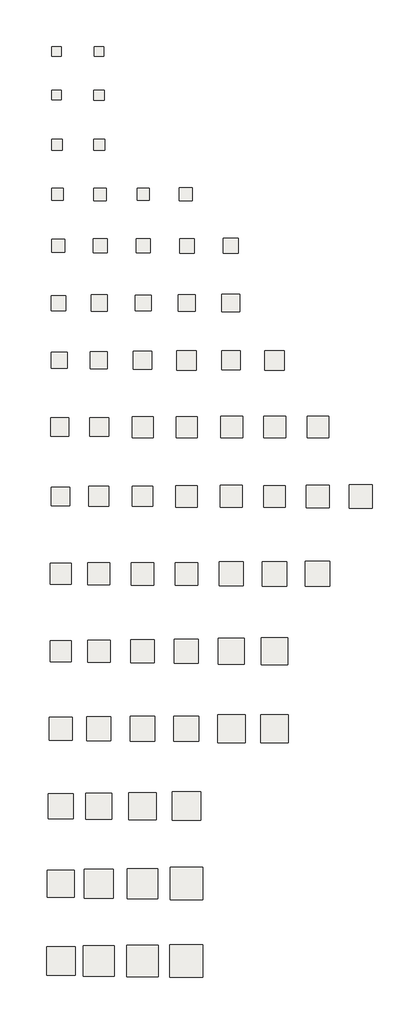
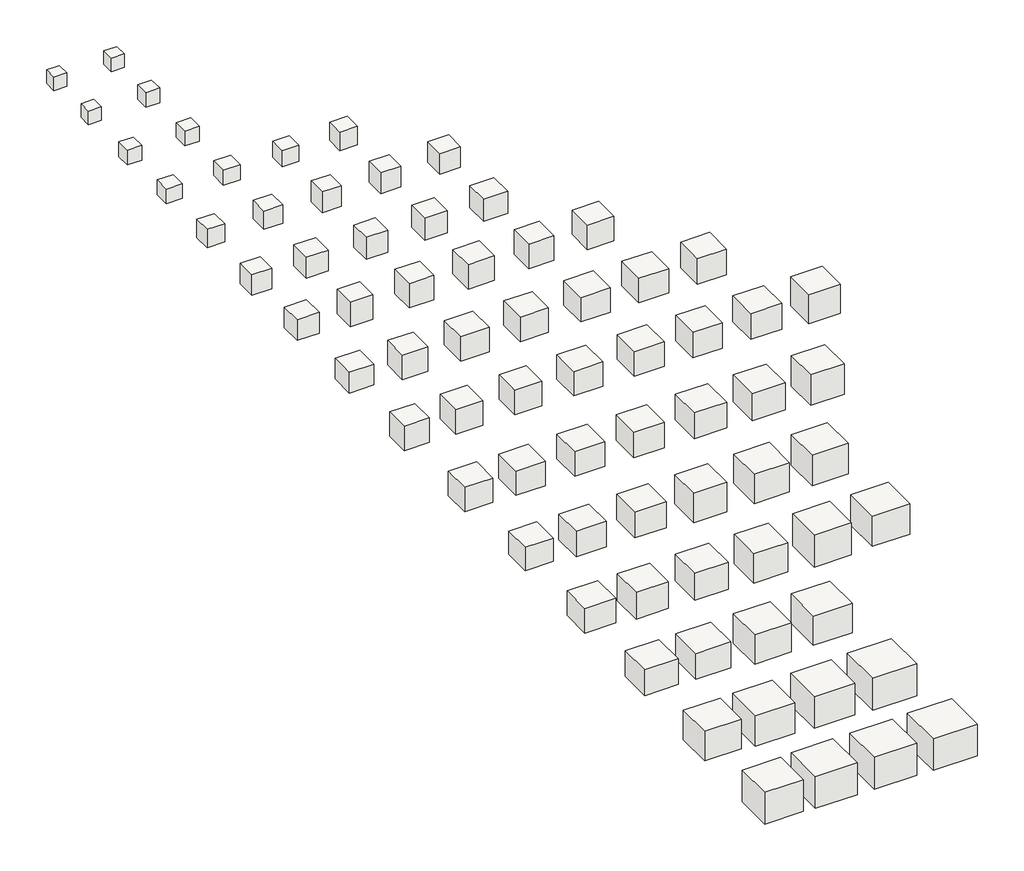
# One storey: 72 slabs.
"""IFC4 building model written with IfcOpenShell, lengths in millimetres."""

from ifc_helpers import new_model, si_unit, frame, origin, place, context, project, spatial, polyline, outline, extrude, transform, mapped, element, save
from components import sp151_05a4cf6c, sp172_eb2fc9ff, sp201_40aa0069, sp202_64a20f4a, sp251_73d5eac0, sp252_80b67837, sp253_21547eb5, sp254_342b2ffc, sp302_24c720b1, sp303_aef286e8, sp304_1c79e197, sp305_9777ce12, sp351_d71c6902, sp352_d6b55bf2, sp353_86609485, sp354_4fb15817, sp355_42aa3880, sp402_d799182d, sp403_6269cbd8, sp404_84e5b0d5, sp451_7c441174, sp452_bbb9569a, sp453_dc423d0a, sp455_c88f138c, sp456_6177a426, sp457_512797bb, sp601_9517f7fc, sp651_9057769a, sp701_4ba59a25, sp751_83db5c08, sp801_8423388f

model = new_model("IFC4")

# Units and contexts
model_context = context("Model", 3, world=origin())
ifc_project = project(units=[si_unit("LENGTHUNIT", "METRE", prefix="MILLI")], contexts=[model_context])

# Site, building, storey
site = spatial("IfcSite", under=ifc_project)
building = spatial("IfcBuilding", under=site)
storey = spatial("IfcBuildingStorey", under=building, Name="レベル 1", Elevation=0.0)

# Slabs
placement = place(None, origin())
sp151_shape = sp151_05a4cf6c(model_context)
element("IfcSlab", 1, ObjectType="柱形_SP : SP151", at=placement, inside=storey, context=model_context, shape_type="MappedRepresentation", body=[
    mapped(sp151_shape, transform((-18374.1210172, 22289.5887732, 0.0), x_axis=(1.0, 0.0, 0.0), y_axis=(0.0, 1.0, 0.0), z_axis=(0.0, 0.0, 1.0))),
])
element("IfcSlab", 2, ObjectType="柱形_SP : SP152", at=placement, inside=storey, context=model_context, shape_type="MappedRepresentation", body=[
    mapped(sp151_shape, transform((-16150.7168251, 22289.5887732, 0.0), x_axis=(1.0, 0.0, 0.0), y_axis=(0.0, 1.0, 0.0), z_axis=(0.0, 0.0, 1.0))),
])
element("IfcSlab", 3, ObjectType="柱形_SP : SP171", at=placement, inside=storey, context=model_context, shape_type="MappedRepresentation", body=[
    mapped(sp151_shape, transform((-18364.1210172, 19989.5887732, 0.0), x_axis=(1.0, 0.0, 0.0), y_axis=(0.0, 1.0, 0.0), z_axis=(0.0, 0.0, 1.0))),
])
sp172_shape = sp172_eb2fc9ff(model_context)
element("IfcSlab", 4, ObjectType="柱形_SP : SP172", at=placement, inside=storey, context=model_context, shape_type="MappedRepresentation", body=[
    mapped(sp172_shape, transform((-16140.7168251, 19989.5887732, 0.0), x_axis=(1.0, 0.0, 0.0), y_axis=(0.0, 1.0, 0.0), z_axis=(0.0, 0.0, 1.0))),
])
sp201_shape = sp201_40aa0069(model_context)
element("IfcSlab", 5, ObjectType="柱形_SP : SP201", at=placement, inside=storey, context=model_context, shape_type="MappedRepresentation", body=[
    mapped(sp201_shape, transform((-18349.1210172, 17389.5887732, 0.0), x_axis=(1.0, 0.0, 0.0), y_axis=(0.0, 1.0, 0.0), z_axis=(0.0, 0.0, 1.0))),
])
sp202_shape = sp202_64a20f4a(model_context)
element("IfcSlab", 6, ObjectType="柱形_SP : SP202", at=placement, inside=storey, context=model_context, shape_type="MappedRepresentation", body=[
    mapped(sp202_shape, transform((-16125.7168251, 17389.5887732, 0.0), x_axis=(1.0, 0.0, 0.0), y_axis=(0.0, 1.0, 0.0), z_axis=(0.0, 0.0, 1.0))),
])
sp251_shape = sp251_73d5eac0(model_context)
element("IfcSlab", 7, ObjectType="柱形_SP : SP251", at=placement, inside=storey, context=model_context, shape_type="MappedRepresentation", body=[
    mapped(sp251_shape, transform((-18324.1210172, 14789.5887732, 0.0), x_axis=(1.0, 0.0, 0.0), y_axis=(0.0, 1.0, 0.0), z_axis=(0.0, 0.0, 1.0))),
])
sp252_shape = sp252_80b67837(model_context)
element("IfcSlab", 8, ObjectType="柱形_SP : SP252", at=placement, inside=storey, context=model_context, shape_type="MappedRepresentation", body=[
    mapped(sp252_shape, transform((-16100.7168251, 14789.5887732, 0.0), x_axis=(1.0, 0.0, 0.0), y_axis=(0.0, 1.0, 0.0), z_axis=(0.0, 0.0, 1.0))),
])
sp253_shape = sp253_21547eb5(model_context)
element("IfcSlab", 9, ObjectType="柱形_SP : SP253", at=placement, inside=storey, context=model_context, shape_type="MappedRepresentation", body=[
    mapped(sp253_shape, transform((-13817.3126329, 14789.5887732, 0.0), x_axis=(1.0, 0.0, 0.0), y_axis=(0.0, 1.0, 0.0), z_axis=(0.0, 0.0, 1.0))),
])
sp254_shape = sp254_342b2ffc(model_context)
element("IfcSlab", 10, ObjectType="柱形_SP : SP254", at=placement, inside=storey, context=model_context, shape_type="MappedRepresentation", body=[
    mapped(sp254_shape, transform((-11583.9084407, 14789.5887732, 0.0), x_axis=(1.0, 0.0, 0.0), y_axis=(0.0, 1.0, 0.0), z_axis=(0.0, 0.0, 1.0))),
])
element("IfcSlab", 11, ObjectType="柱形_SP : SP301", at=placement, inside=storey, context=model_context, shape_type="MappedRepresentation", body=[
    mapped(sp254_shape, transform((-18289.1210172, 12089.5887732, 0.0), x_axis=(1.0, 0.0, 0.0), y_axis=(0.0, 1.0, 0.0), z_axis=(0.0, 0.0, 1.0))),
])
sp302_shape = sp302_24c720b1(model_context)
element("IfcSlab", 12, ObjectType="柱形_SP : SP302", at=placement, inside=storey, context=model_context, shape_type="MappedRepresentation", body=[
    mapped(sp302_shape, transform((-16070.7168251, 12089.5887732, 0.0), x_axis=(1.0, 0.0, 0.0), y_axis=(0.0, 1.0, 0.0), z_axis=(0.0, 0.0, 1.0))),
])
sp303_shape = sp303_aef286e8(model_context)
element("IfcSlab", 13, ObjectType="柱形_SP : SP303", at=placement, inside=storey, context=model_context, shape_type="MappedRepresentation", body=[
    mapped(sp303_shape, transform((-13817.3126329, 12089.5887732, 0.0), x_axis=(1.0, 0.0, 0.0), y_axis=(0.0, 1.0, 0.0), z_axis=(0.0, 0.0, 1.0))),
])
sp304_shape = sp304_1c79e197(model_context)
element("IfcSlab", 14, ObjectType="柱形_SP : SP304", at=placement, inside=storey, context=model_context, shape_type="MappedRepresentation", body=[
    mapped(sp304_shape, transform((-11536.4084407, 12089.5887732, 0.0), x_axis=(1.0, 0.0, 0.0), y_axis=(0.0, 1.0, 0.0), z_axis=(0.0, 0.0, 1.0))),
])
sp305_shape = sp305_9777ce12(model_context)
element("IfcSlab", 15, ObjectType="柱形_SP : SP305", at=placement, inside=storey, context=model_context, shape_type="MappedRepresentation", body=[
    mapped(sp305_shape, transform((-9236.4084407, 12089.5887732, 0.0), x_axis=(1.0, 0.0, 0.0), y_axis=(0.0, 1.0, 0.0), z_axis=(0.0, 0.0, 1.0))),
])
sp351_shape = sp351_d71c6902(model_context)
element("IfcSlab", 16, ObjectType="柱形_SP : SP351", at=placement, inside=storey, context=model_context, shape_type="MappedRepresentation", body=[
    mapped(sp351_shape, transform((-18264.1210172, 9089.5887732, 0.0), x_axis=(1.0, 0.0, 0.0), y_axis=(0.0, 1.0, 0.0), z_axis=(0.0, 0.0, 1.0))),
])
sp352_shape = sp352_d6b55bf2(model_context)
element("IfcSlab", 17, ObjectType="柱形_SP : SP352", at=placement, inside=storey, context=model_context, shape_type="MappedRepresentation", body=[
    mapped(sp352_shape, transform((-16130.7168251, 9089.5887732, 0.0), x_axis=(1.0, 0.0, 0.0), y_axis=(0.0, 1.0, 0.0), z_axis=(0.0, 0.0, 1.0))),
])
sp353_shape = sp353_86609485(model_context)
element("IfcSlab", 18, ObjectType="柱形_SP : SP353", at=placement, inside=storey, context=model_context, shape_type="MappedRepresentation", body=[
    mapped(sp353_shape, transform((-13817.3126329, 9089.5887732, 0.0), x_axis=(1.0, 0.0, 0.0), y_axis=(0.0, 1.0, 0.0), z_axis=(0.0, 0.0, 1.0))),
])
sp354_shape = sp354_4fb15817(model_context)
element("IfcSlab", 19, ObjectType="柱形_SP : SP354", at=placement, inside=storey, context=model_context, shape_type="MappedRepresentation", body=[
    mapped(sp354_shape, transform((-11536.4084407, 9089.5887732, 0.0), x_axis=(1.0, 0.0, 0.0), y_axis=(0.0, 1.0, 0.0), z_axis=(0.0, 0.0, 1.0))),
])
sp355_shape = sp355_42aa3880(model_context)
element("IfcSlab", 20, ObjectType="柱形_SP : SP355", at=placement, inside=storey, context=model_context, shape_type="MappedRepresentation", body=[
    mapped(sp355_shape, transform((-9236.4084407, 9089.5887732, 0.0), x_axis=(1.0, 0.0, 0.0), y_axis=(0.0, 1.0, 0.0), z_axis=(0.0, 0.0, 1.0))),
])
element("IfcSlab", 21, ObjectType="柱形_SP : SP401", at=placement, inside=storey, context=model_context, shape_type="SweptSolid", body=[
    extrude(outline(polyline([(-17796.0106955, 6519.5887732), (-17796.0106955, 5659.5887732), (-18656.0106955, 5659.5887732), (-18656.0106955, 6519.5887732), (-17796.0106955, 6519.5887732)])), frame((0.0, 0.0, -850.0), z_axis=(0.0, 0.0, 1.0), x_axis=(1.0, 0.0, 0.0)), (0.0, 0.0, 1.0), 850.0),
])
sp402_shape = sp402_d799182d(model_context)
element("IfcSlab", 22, ObjectType="柱形_SP : SP402", at=placement, inside=storey, context=model_context, shape_type="MappedRepresentation", body=[
    mapped(sp402_shape, transform((-16159.2265438, 6089.5887732, 0.0), x_axis=(1.0, 0.0, 0.0), y_axis=(0.0, 1.0, 0.0), z_axis=(0.0, 0.0, 1.0))),
])
sp403_shape = sp403_6269cbd8(model_context)
element("IfcSlab", 23, ObjectType="柱形_SP : SP403", at=placement, inside=storey, context=model_context, shape_type="MappedRepresentation", body=[
    mapped(sp403_shape, transform((-13859.2265438, 6089.5887732, 0.0), x_axis=(1.0, 0.0, 0.0), y_axis=(0.0, 1.0, 0.0), z_axis=(0.0, 0.0, 1.0))),
])
sp404_shape = sp404_84e5b0d5(model_context)
element("IfcSlab", 24, ObjectType="柱形_SP : SP404", at=placement, inside=storey, context=model_context, shape_type="MappedRepresentation", body=[
    mapped(sp404_shape, transform((-11559.2265438, 6089.5887732, 0.0), x_axis=(1.0, 0.0, 0.0), y_axis=(0.0, 1.0, 0.0), z_axis=(0.0, 0.0, 1.0))),
])
element("IfcSlab", 25, ObjectType="柱形_SP : SP405", at=placement, inside=storey, context=model_context, shape_type="SweptSolid", body=[
    extrude(outline(polyline([(-8729.2265438, 6579.5887732), (-8729.2265438, 5599.5887732), (-9709.2265438, 5599.5887732), (-9709.2265438, 6579.5887732), (-8729.2265438, 6579.5887732)])), frame((0.0, 0.0, -1000.0), z_axis=(0.0, 0.0, 1.0), x_axis=(1.0, 0.0, 0.0)), (0.0, 0.0, 1.0), 1000.0),
])
element("IfcSlab", 26, ObjectType="柱形_SP : SP406", at=placement, inside=storey, context=model_context, shape_type="SweptSolid", body=[
    extrude(outline(polyline([(-6421.2999676, 6599.5887732), (-6421.2999676, 5579.5887732), (-7441.2999676, 5579.5887732), (-7441.2999676, 6599.5887732), (-6421.2999676, 6599.5887732)])), frame((0.0, 0.0, -1000.0), z_axis=(0.0, 0.0, 1.0), x_axis=(1.0, 0.0, 0.0)), (0.0, 0.0, 1.0), 1000.0),
])
sp451_shape = sp451_7c441174(model_context)
element("IfcSlab", 27, ObjectType="柱形_SP : SP451", at=placement, inside=storey, context=model_context, shape_type="MappedRepresentation", body=[
    mapped(sp451_shape, transform((-18199.1210172, 2589.5887732, 0.0), x_axis=(1.0, 0.0, 0.0), y_axis=(0.0, 1.0, 0.0), z_axis=(0.0, 0.0, 1.0))),
])
sp452_shape = sp452_bbb9569a(model_context)
element("IfcSlab", 28, ObjectType="柱形_SP : SP452", at=placement, inside=storey, context=model_context, shape_type="MappedRepresentation", body=[
    mapped(sp452_shape, transform((-16132.3368655, 2589.5887732, 0.0), x_axis=(1.0, 0.0, 0.0), y_axis=(0.0, 1.0, 0.0), z_axis=(0.0, 0.0, 1.0))),
])
sp453_shape = sp453_dc423d0a(model_context)
element("IfcSlab", 29, ObjectType="柱形_SP : SP453", at=placement, inside=storey, context=model_context, shape_type="MappedRepresentation", body=[
    mapped(sp453_shape, transform((-13844.2265438, 2589.5887732, 0.0), x_axis=(1.0, 0.0, 0.0), y_axis=(0.0, 1.0, 0.0), z_axis=(0.0, 0.0, 1.0))),
])
element("IfcSlab", 30, ObjectType="柱形_SP : SP454", at=placement, inside=storey, context=model_context, shape_type="MappedRepresentation", body=[
    mapped(sp453_shape, transform((-11544.2265438, 2589.5887732, 0.0), x_axis=(1.0, 0.0, 0.0), y_axis=(0.0, 1.0, 0.0), z_axis=(0.0, 0.0, 1.0))),
])
sp455_shape = sp455_c88f138c(model_context)
element("IfcSlab", 31, ObjectType="柱形_SP : SP455", at=placement, inside=storey, context=model_context, shape_type="MappedRepresentation", body=[
    mapped(sp455_shape, transform((-9184.2265438, 2589.5887732, 0.0), x_axis=(1.0, 0.0, 0.0), y_axis=(0.0, 1.0, 0.0), z_axis=(0.0, 0.0, 1.0))),
])
sp456_shape = sp456_6177a426(model_context)
element("IfcSlab", 32, ObjectType="柱形_SP : SP456", at=placement, inside=storey, context=model_context, shape_type="MappedRepresentation", body=[
    mapped(sp456_shape, transform((-6924.2265438, 2589.5887732, 0.0), x_axis=(1.0, 0.0, 0.0), y_axis=(0.0, 1.0, 0.0), z_axis=(0.0, 0.0, 1.0))),
])
sp457_shape = sp457_512797bb(model_context)
element("IfcSlab", 33, ObjectType="柱形_SP : SP457", at=placement, inside=storey, context=model_context, shape_type="MappedRepresentation", body=[
    mapped(sp457_shape, transform((-4664.2265438, 2589.5887732, 0.0), x_axis=(1.0, 0.0, 0.0), y_axis=(0.0, 1.0, 0.0), z_axis=(0.0, 0.0, 1.0))),
])
element("IfcSlab", 34, ObjectType="柱形_SP : SP501", at=placement, inside=storey, context=model_context, shape_type="SweptSolid", body=[
    extrude(outline(polyline([(-17689.1210172, -565.4112268), (-17689.1210172, -1535.4112268), (-18659.1210172, -1535.4112268), (-18659.1210172, -565.4112268), (-17689.1210172, -565.4112268)])), frame((0.0, 0.0, -1000.0), z_axis=(0.0, 0.0, 1.0), x_axis=(1.0, 0.0, 0.0)), (0.0, 0.0, 1.0), 1000.0),
])
element("IfcSlab", 35, ObjectType="柱形_SP : SP502", at=placement, inside=storey, context=model_context, shape_type="SweptSolid", body=[
    extrude(outline(polyline([(-15625.8055027, -525.4112268), (-15625.8055027, -1575.4112268), (-16675.8055027, -1575.4112268), (-16675.8055027, -525.4112268), (-15625.8055027, -525.4112268)])), frame((0.0, 0.0, -1000.0), z_axis=(0.0, 0.0, 1.0), x_axis=(1.0, 0.0, 0.0)), (0.0, 0.0, 1.0), 1000.0),
])
element("IfcSlab", 36, ObjectType="柱形_SP : SP503", at=placement, inside=storey, context=model_context, shape_type="SweptSolid", body=[
    extrude(outline(polyline([(-13337.695181, -525.4112268), (-13337.695181, -1575.4112268), (-14387.695181, -1575.4112268), (-14387.695181, -525.4112268), (-13337.695181, -525.4112268)])), frame((0.0, 0.0, -1000.0), z_axis=(0.0, 0.0, 1.0), x_axis=(1.0, 0.0, 0.0)), (0.0, 0.0, 1.0), 1000.0),
])
element("IfcSlab", 37, ObjectType="柱形_SP : SP504", at=placement, inside=storey, context=model_context, shape_type="SweptSolid", body=[
    extrude(outline(polyline([(-10997.695181, -485.4112268), (-10997.695181, -1615.4112268), (-12127.695181, -1615.4112268), (-12127.695181, -485.4112268), (-10997.695181, -485.4112268)])), frame((0.0, 0.0, -1000.0), z_axis=(0.0, 0.0, 1.0), x_axis=(1.0, 0.0, 0.0)), (0.0, 0.0, 1.0), 1000.0),
])
element("IfcSlab", 38, ObjectType="柱形_SP : SP505", at=placement, inside=storey, context=model_context, shape_type="SweptSolid", body=[
    extrude(outline(polyline([(-8627.695181, -475.4112268), (-8627.695181, -1625.4112268), (-9777.695181, -1625.4112268), (-9777.695181, -475.4112268), (-8627.695181, -475.4112268)])), frame((0.0, 0.0, -1000.0), z_axis=(0.0, 0.0, 1.0), x_axis=(1.0, 0.0, 0.0)), (0.0, 0.0, 1.0), 1000.0),
])
element("IfcSlab", 39, ObjectType="柱形_SP : SP506", at=placement, inside=storey, context=model_context, shape_type="SweptSolid", body=[
    extrude(outline(polyline([(-6372.695181, -480.4112268), (-6372.695181, -1620.4112268), (-7512.695181, -1620.4112268), (-7512.695181, -480.4112268), (-6372.695181, -480.4112268)])), frame((0.0, 0.0, -1050.0), z_axis=(0.0, 0.0, 1.0), x_axis=(1.0, 0.0, 0.0)), (0.0, 0.0, 1.0), 1050.0),
])
element("IfcSlab", 40, ObjectType="柱形_SP : SP507", at=placement, inside=storey, context=model_context, shape_type="SweptSolid", body=[
    extrude(outline(polyline([(-4082.695181, -450.4112268), (-4082.695181, -1650.4112268), (-5282.695181, -1650.4112268), (-5282.695181, -450.4112268), (-4082.695181, -450.4112268)])), frame((0.0, 0.0, -1050.0), z_axis=(0.0, 0.0, 1.0), x_axis=(1.0, 0.0, 0.0)), (0.0, 0.0, 1.0), 1050.0),
])
element("IfcSlab", 41, ObjectType="柱形_SP : SP508", at=placement, inside=storey, context=model_context, shape_type="SweptSolid", body=[
    extrude(outline(polyline([(-1812.695181, -440.4112268), (-1812.695181, -1660.4112268), (-3032.695181, -1660.4112268), (-3032.695181, -440.4112268), (-1812.695181, -440.4112268)])), frame((0.0, 0.0, -1200.0), z_axis=(0.0, 0.0, 1.0), x_axis=(1.0, 0.0, 0.0)), (0.0, 0.0, 1.0), 1200.0),
])
element("IfcSlab", 42, ObjectType="柱形_SP : SP551", at=placement, inside=storey, context=model_context, shape_type="MappedRepresentation", body=[
    mapped(sp453_shape, transform((-18144.1210172, -5110.4112268, 0.0), x_axis=(1.0, 0.0, 0.0), y_axis=(0.0, 1.0, 0.0), z_axis=(0.0, 0.0, 1.0))),
])
element("IfcSlab", 43, ObjectType="柱形_SP : SP552", at=placement, inside=storey, context=model_context, shape_type="SweptSolid", body=[
    extrude(outline(polyline([(-15575.8055027, -4535.4112268), (-15575.8055027, -5685.4112268), (-16725.8055027, -5685.4112268), (-16725.8055027, -4535.4112268), (-15575.8055027, -4535.4112268)])), frame((0.0, 0.0, -1000.0), z_axis=(0.0, 0.0, 1.0), x_axis=(1.0, 0.0, 0.0)), (0.0, 0.0, 1.0), 1000.0),
])
element("IfcSlab", 44, ObjectType="柱形_SP : SP553", at=placement, inside=storey, context=model_context, shape_type="SweptSolid", body=[
    extrude(outline(polyline([(-13272.695181, -4520.4112268), (-13272.695181, -5700.4112268), (-14452.695181, -5700.4112268), (-14452.695181, -4520.4112268), (-13272.695181, -4520.4112268)])), frame((0.0, 0.0, -1000.0), z_axis=(0.0, 0.0, 1.0), x_axis=(1.0, 0.0, 0.0)), (0.0, 0.0, 1.0), 1000.0),
])
element("IfcSlab", 45, ObjectType="柱形_SP : SP554", at=placement, inside=storey, context=model_context, shape_type="SweptSolid", body=[
    extrude(outline(polyline([(-10977.695181, -4525.4112268), (-10977.695181, -5695.4112268), (-12147.695181, -5695.4112268), (-12147.695181, -4525.4112268), (-10977.695181, -4525.4112268)])), frame((0.0, 0.0, -1050.0), z_axis=(0.0, 0.0, 1.0), x_axis=(1.0, 0.0, 0.0)), (0.0, 0.0, 1.0), 1050.0),
])
element("IfcSlab", 46, ObjectType="柱形_SP : SP555", at=placement, inside=storey, context=model_context, shape_type="SweptSolid", body=[
    extrude(outline(polyline([(-8572.695181, -4480.4112268), (-8572.695181, -5740.4112268), (-9832.695181, -5740.4112268), (-9832.695181, -4480.4112268), (-8572.695181, -4480.4112268)])), frame((0.0, 0.0, -1050.0), z_axis=(0.0, 0.0, 1.0), x_axis=(1.0, 0.0, 0.0)), (0.0, 0.0, 1.0), 1050.0),
])
element("IfcSlab", 47, ObjectType="柱形_SP : SP556", at=placement, inside=storey, context=model_context, shape_type="SweptSolid", body=[
    extrude(outline(polyline([(-6302.695181, -4470.4112268), (-6302.695181, -5750.4112268), (-7582.695181, -5750.4112268), (-7582.695181, -4470.4112268), (-6302.695181, -4470.4112268)])), frame((0.0, 0.0, -1100.0), z_axis=(0.0, 0.0, 1.0), x_axis=(1.0, 0.0, 0.0)), (0.0, 0.0, 1.0), 1100.0),
])
element("IfcSlab", 48, ObjectType="柱形_SP : SP557", at=placement, inside=storey, context=model_context, shape_type="SweptSolid", body=[
    extrude(outline(polyline([(-4032.695181, -4460.4112268), (-4032.695181, -5760.4112268), (-5332.695181, -5760.4112268), (-5332.695181, -4460.4112268), (-4032.695181, -4460.4112268)])), frame((0.0, 0.0, -1250.0), z_axis=(0.0, 0.0, 1.0), x_axis=(1.0, 0.0, 0.0)), (0.0, 0.0, 1.0), 1250.0),
])
sp601_shape = sp601_9517f7fc(model_context)
element("IfcSlab", 49, ObjectType="柱形_SP : SP601", at=placement, inside=storey, context=model_context, shape_type="MappedRepresentation", body=[
    mapped(sp601_shape, transform((-18144.1210172, -9170.4112268, 0.0), x_axis=(1.0, 0.0, 0.0), y_axis=(0.0, 1.0, 0.0), z_axis=(0.0, 0.0, 1.0))),
])
element("IfcSlab", 50, ObjectType="柱形_SP : SP602", at=placement, inside=storey, context=model_context, shape_type="SweptSolid", body=[
    extrude(outline(polyline([(-15565.8055027, -8585.4112268), (-15565.8055027, -9755.4112268), (-16735.8055027, -9755.4112268), (-16735.8055027, -8585.4112268), (-15565.8055027, -8585.4112268)])), frame((0.0, 0.0, -1050.0), z_axis=(0.0, 0.0, 1.0), x_axis=(1.0, 0.0, 0.0)), (0.0, 0.0, 1.0), 1050.0),
])
element("IfcSlab", 51, ObjectType="柱形_SP : SP603", at=placement, inside=storey, context=model_context, shape_type="SweptSolid", body=[
    extrude(outline(polyline([(-13252.695181, -8560.4112268), (-13252.695181, -9780.4112268), (-14472.695181, -9780.4112268), (-14472.695181, -8560.4112268), (-13252.695181, -8560.4112268)])), frame((0.0, 0.0, -1050.0), z_axis=(0.0, 0.0, 1.0), x_axis=(1.0, 0.0, 0.0)), (0.0, 0.0, 1.0), 1050.0),
])
element("IfcSlab", 52, ObjectType="柱形_SP : SP604", at=placement, inside=storey, context=model_context, shape_type="SweptSolid", body=[
    extrude(outline(polyline([(-10927.695181, -8535.4112268), (-10927.695181, -9805.4112268), (-12197.695181, -9805.4112268), (-12197.695181, -8535.4112268), (-10927.695181, -8535.4112268)])), frame((0.0, 0.0, -1200.0), z_axis=(0.0, 0.0, 1.0), x_axis=(1.0, 0.0, 0.0)), (0.0, 0.0, 1.0), 1200.0),
])
element("IfcSlab", 53, ObjectType="柱形_SP : SP605", at=placement, inside=storey, context=model_context, shape_type="SweptSolid", body=[
    extrude(outline(polyline([(-8517.695181, -8485.4112268), (-8517.695181, -9855.4112268), (-9887.695181, -9855.4112268), (-9887.695181, -8485.4112268), (-8517.695181, -8485.4112268)])), frame((0.0, 0.0, -1200.0), z_axis=(0.0, 0.0, 1.0), x_axis=(1.0, 0.0, 0.0)), (0.0, 0.0, 1.0), 1200.0),
])
element("IfcSlab", 54, ObjectType="柱形_SP : SP606", at=placement, inside=storey, context=model_context, shape_type="SweptSolid", body=[
    extrude(outline(polyline([(-6242.695181, -8470.4112268), (-6242.695181, -9870.4112268), (-7642.695181, -9870.4112268), (-7642.695181, -8470.4112268), (-6242.695181, -8470.4112268)])), frame((0.0, 0.0, -1250.0), z_axis=(0.0, 0.0, 1.0), x_axis=(1.0, 0.0, 0.0)), (0.0, 0.0, 1.0), 1250.0),
])
sp651_shape = sp651_9057769a(model_context)
element("IfcSlab", 55, ObjectType="柱形_SP : SP651", at=placement, inside=storey, context=model_context, shape_type="MappedRepresentation", body=[
    mapped(sp651_shape, transform((-18144.1210172, -13230.4112268, 0.0), x_axis=(1.0, 0.0, 0.0), y_axis=(0.0, 1.0, 0.0), z_axis=(0.0, 0.0, 1.0))),
])
element("IfcSlab", 56, ObjectType="柱形_SP : SP652", at=placement, inside=storey, context=model_context, shape_type="SweptSolid", body=[
    extrude(outline(polyline([(-15525.8055027, -12605.4112268), (-15525.8055027, -13855.4112268), (-16775.8055027, -13855.4112268), (-16775.8055027, -12605.4112268), (-15525.8055027, -12605.4112268)])), frame((0.0, 0.0, -1100.0), z_axis=(0.0, 0.0, 1.0), x_axis=(1.0, 0.0, 0.0)), (0.0, 0.0, 1.0), 1100.0),
])
element("IfcSlab", 57, ObjectType="柱形_SP : SP653", at=placement, inside=storey, context=model_context, shape_type="SweptSolid", body=[
    extrude(outline(polyline([(-13212.695181, -12580.4112268), (-13212.695181, -13880.4112268), (-14512.695181, -13880.4112268), (-14512.695181, -12580.4112268), (-13212.695181, -12580.4112268)])), frame((0.0, 0.0, -1100.0), z_axis=(0.0, 0.0, 1.0), x_axis=(1.0, 0.0, 0.0)), (0.0, 0.0, 1.0), 1100.0),
])
element("IfcSlab", 58, ObjectType="柱形_SP : SP654", at=placement, inside=storey, context=model_context, shape_type="SweptSolid", body=[
    extrude(outline(polyline([(-10902.695181, -12570.4112268), (-10902.695181, -13890.4112268), (-12222.695181, -13890.4112268), (-12222.695181, -12570.4112268), (-10902.695181, -12570.4112268)])), frame((0.0, 0.0, -1200.0), z_axis=(0.0, 0.0, 1.0), x_axis=(1.0, 0.0, 0.0)), (0.0, 0.0, 1.0), 1200.0),
])
element("IfcSlab", 59, ObjectType="柱形_SP : SP655", at=placement, inside=storey, context=model_context, shape_type="SweptSolid", body=[
    extrude(outline(polyline([(-8477.695181, -12505.4112268), (-8477.695181, -13955.4112268), (-9927.695181, -13955.4112268), (-9927.695181, -12505.4112268), (-8477.695181, -12505.4112268)])), frame((0.0, 0.0, -1300.0), z_axis=(0.0, 0.0, 1.0), x_axis=(1.0, 0.0, 0.0)), (0.0, 0.0, 1.0), 1300.0),
])
element("IfcSlab", 60, ObjectType="柱形_SP : SP656", at=placement, inside=storey, context=model_context, shape_type="SweptSolid", body=[
    extrude(outline(polyline([(-6217.695181, -12505.4112268), (-6217.695181, -13955.4112268), (-7667.695181, -13955.4112268), (-7667.695181, -12505.4112268), (-6217.695181, -12505.4112268)])), frame((0.0, 0.0, -1250.0), z_axis=(0.0, 0.0, 1.0), x_axis=(1.0, 0.0, 0.0)), (0.0, 0.0, 1.0), 1250.0),
])
sp701_shape = sp701_4ba59a25(model_context)
element("IfcSlab", 61, ObjectType="柱形_SP : SP701", at=placement, inside=storey, context=model_context, shape_type="MappedRepresentation", body=[
    mapped(sp701_shape, transform((-18144.1210172, -17290.4112268, 0.0), x_axis=(1.0, 0.0, 0.0), y_axis=(0.0, 1.0, 0.0), z_axis=(0.0, 0.0, 1.0))),
])
element("IfcSlab", 62, ObjectType="柱形_SP : SP702", at=placement, inside=storey, context=model_context, shape_type="SweptSolid", body=[
    extrude(outline(polyline([(-15475.8055027, -16615.4112268), (-15475.8055027, -17965.4112268), (-16825.8055027, -17965.4112268), (-16825.8055027, -16615.4112268), (-15475.8055027, -16615.4112268)])), frame((0.0, 0.0, -1050.0), z_axis=(0.0, 0.0, 1.0), x_axis=(1.0, 0.0, 0.0)), (0.0, 0.0, 1.0), 1050.0),
])
element("IfcSlab", 63, ObjectType="柱形_SP : SP703", at=placement, inside=storey, context=model_context, shape_type="SweptSolid", body=[
    extrude(outline(polyline([(-13152.695181, -16580.4112268), (-13152.695181, -18000.4112268), (-14572.695181, -18000.4112268), (-14572.695181, -16580.4112268), (-13152.695181, -16580.4112268)])), frame((0.0, 0.0, -1200.0), z_axis=(0.0, 0.0, 1.0), x_axis=(1.0, 0.0, 0.0)), (0.0, 0.0, 1.0), 1200.0),
])
element("IfcSlab", 64, ObjectType="柱形_SP : SP704", at=placement, inside=storey, context=model_context, shape_type="SweptSolid", body=[
    extrude(outline(polyline([(-10812.695181, -16540.4112268), (-10812.695181, -18040.4112268), (-12312.695181, -18040.4112268), (-12312.695181, -16540.4112268), (-10812.695181, -16540.4112268)])), frame((0.0, 0.0, -1200.0), z_axis=(0.0, 0.0, 1.0), x_axis=(1.0, 0.0, 0.0)), (0.0, 0.0, 1.0), 1200.0),
])
sp751_shape = sp751_83db5c08(model_context)
element("IfcSlab", 65, ObjectType="柱形_SP : SP751", at=placement, inside=storey, context=model_context, shape_type="MappedRepresentation", body=[
    mapped(sp751_shape, transform((-18144.1210172, -21350.4112268, 0.0), x_axis=(1.0, 0.0, 0.0), y_axis=(0.0, 1.0, 0.0), z_axis=(0.0, 0.0, 1.0))),
])
element("IfcSlab", 66, ObjectType="柱形_SP : SP752", at=placement, inside=storey, context=model_context, shape_type="SweptSolid", body=[
    extrude(outline(polyline([(-15390.8055027, -20590.4112268), (-15390.8055027, -22110.4112268), (-16910.8055027, -22110.4112268), (-16910.8055027, -20590.4112268), (-15390.8055027, -20590.4112268)])), frame((0.0, 0.0, -1250.0), z_axis=(0.0, 0.0, 1.0), x_axis=(1.0, 0.0, 0.0)), (0.0, 0.0, 1.0), 1250.0),
])
element("IfcSlab", 67, ObjectType="柱形_SP : SP753", at=placement, inside=storey, context=model_context, shape_type="SweptSolid", body=[
    extrude(outline(polyline([(-13072.695181, -20560.4112268), (-13072.695181, -22140.4112268), (-14652.695181, -22140.4112268), (-14652.695181, -20560.4112268), (-13072.695181, -20560.4112268)])), frame((0.0, 0.0, -1300.0), z_axis=(0.0, 0.0, 1.0), x_axis=(1.0, 0.0, 0.0)), (0.0, 0.0, 1.0), 1300.0),
])
element("IfcSlab", 68, ObjectType="柱形_SP : SP754", at=placement, inside=storey, context=model_context, shape_type="SweptSolid", body=[
    extrude(outline(polyline([(-10712.695181, -20500.4112268), (-10712.695181, -22200.4112268), (-12412.695181, -22200.4112268), (-12412.695181, -20500.4112268), (-10712.695181, -20500.4112268)])), frame((0.0, 0.0, -1300.0), z_axis=(0.0, 0.0, 1.0), x_axis=(1.0, 0.0, 0.0)), (0.0, 0.0, 1.0), 1300.0),
])
sp801_shape = sp801_8423388f(model_context)
element("IfcSlab", 69, ObjectType="柱形_SP : SP801", at=placement, inside=storey, context=model_context, shape_type="MappedRepresentation", body=[
    mapped(sp801_shape, transform((-18144.1210172, -25410.4112268, 0.0), x_axis=(1.0, 0.0, 0.0), y_axis=(0.0, 1.0, 0.0), z_axis=(0.0, 0.0, 1.0))),
])
element("IfcSlab", 70, ObjectType="柱形_SP : SP802", at=placement, inside=storey, context=model_context, shape_type="SweptSolid", body=[
    extrude(outline(polyline([(-15340.8055027, -24600.4112268), (-15340.8055027, -26220.4112268), (-16960.8055027, -26220.4112268), (-16960.8055027, -24600.4112268), (-15340.8055027, -24600.4112268)])), frame((0.0, 0.0, -1300.0), z_axis=(0.0, 0.0, 1.0), x_axis=(1.0, 0.0, 0.0)), (0.0, 0.0, 1.0), 1300.0),
])
element("IfcSlab", 71, ObjectType="柱形_SP : SP803", at=placement, inside=storey, context=model_context, shape_type="SweptSolid", body=[
    extrude(outline(polyline([(-13042.695181, -24590.4112268), (-13042.695181, -26230.4112268), (-14682.695181, -26230.4112268), (-14682.695181, -24590.4112268), (-13042.695181, -24590.4112268)])), frame((0.0, 0.0, -1300.0), z_axis=(0.0, 0.0, 1.0), x_axis=(1.0, 0.0, 0.0)), (0.0, 0.0, 1.0), 1300.0),
])
element("IfcSlab", 72, ObjectType="柱形_SP : SP804", at=placement, inside=storey, context=model_context, shape_type="SweptSolid", body=[
    extrude(outline(polyline([(-10702.695181, -24550.4112268), (-10702.695181, -26270.4112268), (-12422.695181, -26270.4112268), (-12422.695181, -24550.4112268), (-10702.695181, -24550.4112268)])), frame((0.0, 0.0, -1300.0), z_axis=(0.0, 0.0, 1.0), x_axis=(1.0, 0.0, 0.0)), (0.0, 0.0, 1.0), 1300.0),
])

save(model, "model.ifc")
